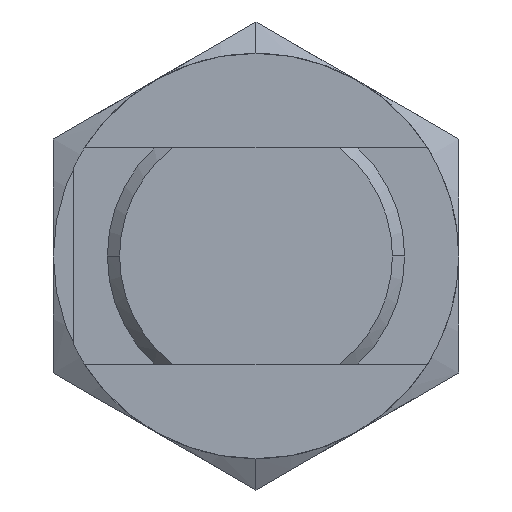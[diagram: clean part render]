
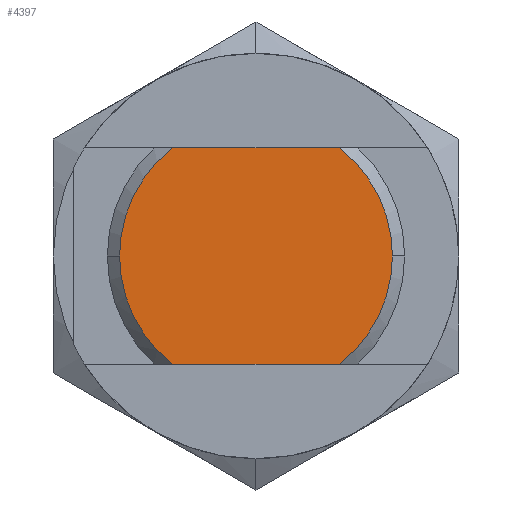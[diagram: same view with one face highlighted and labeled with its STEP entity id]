
A CAD part, front view. The second image highlights one B-rep face of the part: STEP entity #4397.
In plain terms, the highlighted planar face has unit normal (0, -1, 0).
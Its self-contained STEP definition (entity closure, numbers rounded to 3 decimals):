
#3519=CARTESIAN_POINT('',(10.1,0.0,0.));
#3520=VERTEX_POINT('',#3519);
#3527=CARTESIAN_POINT('',(6.165,0.0,-8.0));
#3528=VERTEX_POINT('',#3527);
#3529=CARTESIAN_POINT('',(0.0,0.0,0.0));
#3530=DIRECTION('',(0.0,1.0,0.0));
#3531=DIRECTION('',(1.0,0.0,0.0));
#3532=AXIS2_PLACEMENT_3D('',#3529,#3530,#3531);
#3533=CIRCLE('',#3532,10.1);
#3534=EDGE_CURVE('',#3520,#3528,#3533,.T.);
#3608=CARTESIAN_POINT('',(-10.1,0.0,0.));
#3609=VERTEX_POINT('',#3608);
#3616=CARTESIAN_POINT('',(-6.165,0.0,8.0));
#3617=VERTEX_POINT('',#3616);
#3618=CARTESIAN_POINT('',(0.0,0.0,0.0));
#3619=DIRECTION('',(0.0,1.0,0.0));
#3620=DIRECTION('',(-1.0,0.0,0.0));
#3621=AXIS2_PLACEMENT_3D('',#3618,#3619,#3620);
#3622=CIRCLE('',#3621,10.1);
#3623=EDGE_CURVE('',#3609,#3617,#3622,.T.);
#3657=CARTESIAN_POINT('',(-6.165,0.0,-8.0));
#3658=VERTEX_POINT('',#3657);
#3672=CARTESIAN_POINT('',(0.0,0.0,0.0));
#3673=DIRECTION('',(0.0,1.0,0.0));
#3674=DIRECTION('',(-1.0,0.0,0.0));
#3675=AXIS2_PLACEMENT_3D('',#3672,#3673,#3674);
#3676=CIRCLE('',#3675,10.1);
#3677=EDGE_CURVE('',#3658,#3609,#3676,.T.);
#3713=CARTESIAN_POINT('',(6.165,0.0,8.0));
#3714=VERTEX_POINT('',#3713);
#3715=CARTESIAN_POINT('',(6.165,0.0,8.0));
#3716=DIRECTION('',(-1.0,0.0,0.0));
#3717=VECTOR('',#3716,12.33);
#3718=LINE('',#3715,#3717);
#3719=EDGE_CURVE('',#3714,#3617,#3718,.T.);
#3777=CARTESIAN_POINT('',(0.0,0.0,0.0));
#3778=DIRECTION('',(0.0,1.0,0.0));
#3779=DIRECTION('',(1.0,0.0,0.0));
#3780=AXIS2_PLACEMENT_3D('',#3777,#3778,#3779);
#3781=CIRCLE('',#3780,10.1);
#3782=EDGE_CURVE('',#3714,#3520,#3781,.T.);
#3859=CARTESIAN_POINT('',(-6.165,0.0,-8.0));
#3860=DIRECTION('',(1.0,0.0,0.0));
#3861=VECTOR('',#3860,12.33);
#3862=LINE('',#3859,#3861);
#3863=EDGE_CURVE('',#3658,#3528,#3862,.T.);
#4384=CARTESIAN_POINT('',(-5.5,0.0,0.0));
#4385=DIRECTION('',(0.0,-1.0,0.0));
#4386=DIRECTION('',(0.0,0.0,-1.0));
#4387=AXIS2_PLACEMENT_3D('',#4384,#4385,#4386);
#4388=PLANE('',#4387);
#4389=ORIENTED_EDGE('',*,*,#3677,.F.);
#4390=ORIENTED_EDGE('',*,*,#3863,.T.);
#4391=ORIENTED_EDGE('',*,*,#3534,.F.);
#4392=ORIENTED_EDGE('',*,*,#3782,.F.);
#4393=ORIENTED_EDGE('',*,*,#3719,.T.);
#4394=ORIENTED_EDGE('',*,*,#3623,.F.);
#4395=EDGE_LOOP('',(#4389,#4390,#4391,#4392,#4393,#4394));
#4396=FACE_OUTER_BOUND('',#4395,.T.);
#4397=ADVANCED_FACE('',(#4396),#4388,.T.);
